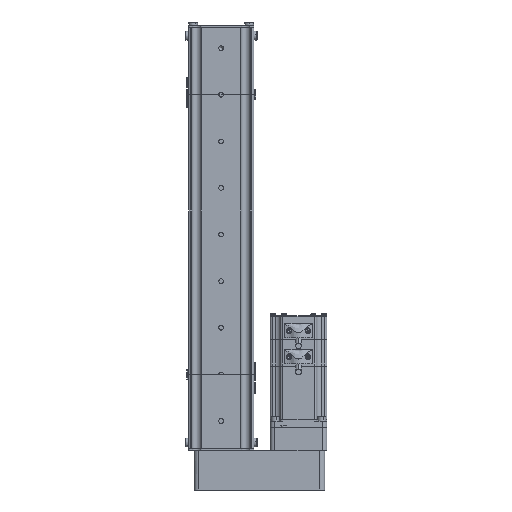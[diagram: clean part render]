
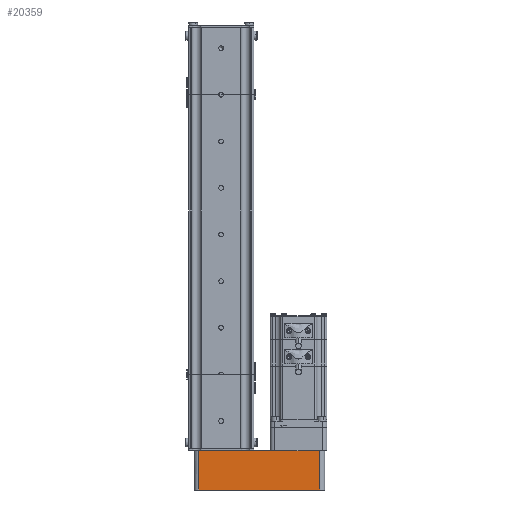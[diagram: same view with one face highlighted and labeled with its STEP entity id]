
A CAD part, front view. The second image highlights one B-rep face of the part: STEP entity #20359.
In plain terms, the highlighted planar face has unit normal (0, -1, 0).
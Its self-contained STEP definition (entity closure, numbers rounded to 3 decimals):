
#17748 = EDGE_CURVE ( 'NONE', #17763, #17772, #79222, .T. ) ;
#17763 = VERTEX_POINT ( 'NONE', #79171 ) ;
#17772 = VERTEX_POINT ( 'NONE', #79161 ) ;
#17861 = EDGE_CURVE ( 'NONE', #17934, #17954, #79706, .T. ) ;
#17934 = VERTEX_POINT ( 'NONE', #79685 ) ;
#17954 = VERTEX_POINT ( 'NONE', #79791 ) ;
#19545 = EDGE_CURVE ( 'NONE', #19611, #17763, #82179, .T. ) ;
#19599 = EDGE_CURVE ( 'NONE', #17954, #20136, #82656, .T. ) ;
#19611 = VERTEX_POINT ( 'NONE', #82610 ) ;
#20136 = VERTEX_POINT ( 'NONE', #83028 ) ;
#20189 = ORIENTED_EDGE ( 'NONE', *, *, #20297, .T. ) ;
#20241 = EDGE_CURVE ( 'NONE', #17772, #17934, #89058, .T. ) ;
#20267 = ORIENTED_EDGE ( 'NONE', *, *, #17861, .T. ) ;
#20297 = EDGE_CURVE ( 'NONE', #20136, #20425, #88916, .T. ) ;
#20323 = ORIENTED_EDGE ( 'NONE', *, *, #19599, .T. ) ;
#20349 = ORIENTED_EDGE ( 'NONE', *, *, #20364, .F. ) ;
#20350 = EDGE_LOOP ( 'NONE', ( #20323, #20189, #20349, #20353, #20372, #20401, #20366, #20267 ) ) ;
#20353 = ORIENTED_EDGE ( 'NONE', *, *, #20367, .T. ) ;
#20359 = ADVANCED_FACE ( 'NONE', ( #88955 ), #89258, .F. ) ;
#20362 = VERTEX_POINT ( 'NONE', #88773 ) ;
#20364 = EDGE_CURVE ( 'NONE', #20362, #20425, #88796, .T. ) ;
#20366 = ORIENTED_EDGE ( 'NONE', *, *, #20241, .T. ) ;
#20367 = EDGE_CURVE ( 'NONE', #20362, #19611, #88749, .T. ) ;
#20372 = ORIENTED_EDGE ( 'NONE', *, *, #19545, .T. ) ;
#20401 = ORIENTED_EDGE ( 'NONE', *, *, #17748, .T. ) ;
#20425 = VERTEX_POINT ( 'NONE', #89090 ) ;
#79161 = CARTESIAN_POINT ( 'NONE',  ( -30.58, -28.5, 3. ) ) ;
#79171 = CARTESIAN_POINT ( 'NONE',  ( -35., -28.5, 3. ) ) ;
#79217 = DIRECTION ( 'NONE',  ( 1., 0., 0. ) ) ;
#79219 = VECTOR ( 'NONE', #79217, 1000. ) ;
#79221 = CARTESIAN_POINT ( 'NONE',  ( -111., -28.5, 3. ) ) ;
#79222 = LINE ( 'NONE', #79221, #79219 ) ;
#79610 = DIRECTION ( 'NONE',  ( 1., 0., 0. ) ) ;
#79611 = VECTOR ( 'NONE', #79610, 1000. ) ;
#79612 = CARTESIAN_POINT ( 'NONE',  ( -111., -28.5, 3. ) ) ;
#79685 = CARTESIAN_POINT ( 'NONE',  ( -21.92, -28.5, 3. ) ) ;
#79706 = LINE ( 'NONE', #79612, #79611 ) ;
#79791 = CARTESIAN_POINT ( 'NONE',  ( 21.92, -28.5, 3. ) ) ;
#82166 = DIRECTION ( 'NONE',  ( 1., 0., 0. ) ) ;
#82168 = VECTOR ( 'NONE', #82166, 1000. ) ;
#82177 = CARTESIAN_POINT ( 'NONE',  ( -111., -28.5, 3. ) ) ;
#82179 = LINE ( 'NONE', #82177, #82168 ) ;
#82592 = DIRECTION ( 'NONE',  ( 1., 0., 0. ) ) ;
#82594 = VECTOR ( 'NONE', #82592, 1000. ) ;
#82608 = CARTESIAN_POINT ( 'NONE',  ( -111., -28.5, 3. ) ) ;
#82610 = CARTESIAN_POINT ( 'NONE',  ( -106., -28.5, 3. ) ) ;
#82656 = LINE ( 'NONE', #82608, #82594 ) ;
#83028 = CARTESIAN_POINT ( 'NONE',  ( 24., -28.5, 3. ) ) ;
#88725 = DIRECTION ( 'NONE',  ( 0., 0., 1. ) ) ;
#88727 = VECTOR ( 'NONE', #88725, 1000. ) ;
#88745 = DIRECTION ( 'NONE',  ( 0., 0., -1. ) ) ;
#88747 = VECTOR ( 'NONE', #88745, 1000. ) ;
#88748 = CARTESIAN_POINT ( 'NONE',  ( -106., -28.5, 45. ) ) ;
#88749 = LINE ( 'NONE', #88748, #88747 ) ;
#88756 = DIRECTION ( 'NONE',  ( 1., 0., 0. ) ) ;
#88759 = VECTOR ( 'NONE', #88756, 1000. ) ;
#88762 = CARTESIAN_POINT ( 'NONE',  ( -111., -28.5, 45. ) ) ;
#88773 = CARTESIAN_POINT ( 'NONE',  ( -106., -28.5, 45. ) ) ;
#88783 = DIRECTION ( 'NONE',  ( -1., 0., 0. ) ) ;
#88786 = DIRECTION ( 'NONE',  ( 0., 1., 0. ) ) ;
#88796 = LINE ( 'NONE', #88762, #88759 ) ;
#88803 = AXIS2_PLACEMENT_3D ( 'NONE', #89259, #88786, #88783 ) ;
#88901 = CARTESIAN_POINT ( 'NONE',  ( -111., -28.5, 3. ) ) ;
#88915 = CARTESIAN_POINT ( 'NONE',  ( 24., -28.5, 45. ) ) ;
#88916 = LINE ( 'NONE', #88915, #88727 ) ;
#88955 = FACE_OUTER_BOUND ( 'NONE', #20350, .T. ) ;
#89033 = DIRECTION ( 'NONE',  ( 1., 0., 0. ) ) ;
#89035 = VECTOR ( 'NONE', #89033, 1000. ) ;
#89058 = LINE ( 'NONE', #88901, #89035 ) ;
#89090 = CARTESIAN_POINT ( 'NONE',  ( 24., -28.5, 45. ) ) ;
#89258 = PLANE ( 'NONE',  #88803 ) ;
#89259 = CARTESIAN_POINT ( 'NONE',  ( -111., -28.5, 45. ) ) ;
